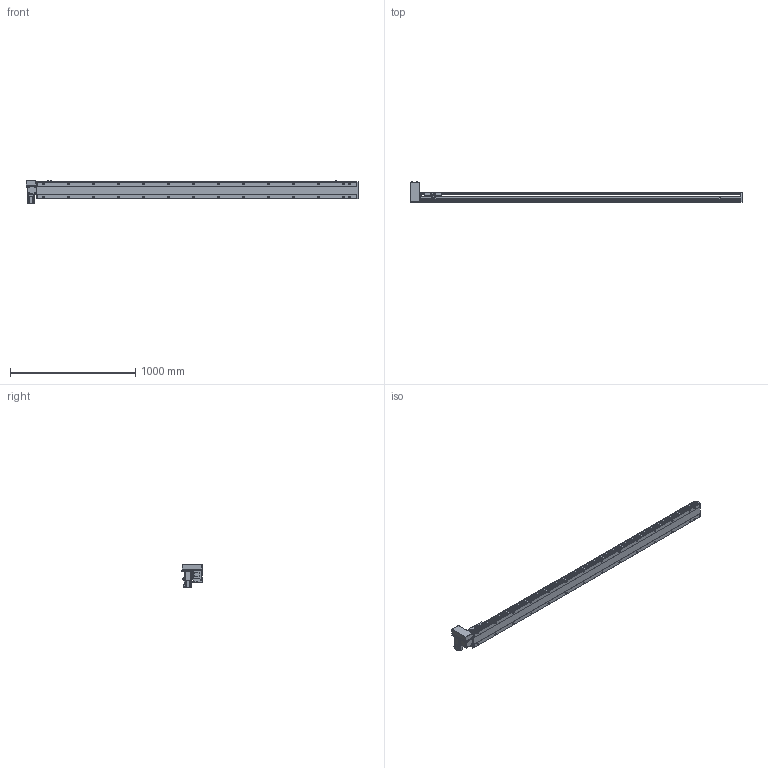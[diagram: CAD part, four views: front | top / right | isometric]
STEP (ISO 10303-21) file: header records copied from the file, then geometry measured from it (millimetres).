
FILE_DESCRIPTION( ( 'STEP AP214' ), '1' );
FILE_NAME( 'x:/temp/worker_4/temp/exporttempdir_2248_117_CDwH3/format_0/PBS140-P40-S2300-RU-T40-C1-N(0).stp', '2022-06-07T05:56:38', ( 'License CC BY-ND 4.0' ), ( 'CADENAS' ), ' ', 'PARTsolutions', ' ' );
FILE_SCHEMA( ( 'AUTOMOTIVE_DESIGN { 1 0 10303 214 1 1 1 1 }' ) );
Length unit declared in the file: millimetre
Products named in the file (7): PBS140-P40-S2300-RU-T40-C1-N(0); _PBS140-S2300()_body; _PBS140T-RU_motors; _T40-p1; _PBS140_sliser; _PBS140_plant; _PBS140_sensor
Assembly tree (8 placements, depth 2):
  PBS140-P40-S2300-RU-T40-C1-N(0)
    _PBS140-S2300()_body
    _PBS140T-RU_motors
    _T40-p1
    _PBS140_sliser
    _PBS140_plant
    _PBS140_sensor  x3
Bounding box: 2654 x 162.5 x 189.7 mm (x, y, z)
Volume: 11960534.8 mm3; surface area: 2041988.6 mm2
Topology: 8 solids, 8 shells, 1171 faces, 3076 edges, 2009 vertices
Faces by surface type: plane 728, cylinder 379, cone 54, sphere 8, torus 2
Full cylindrical faces by diameter (mm): 3.242 x4, 4 x2, 4.134 x4, 4.4 x8, 4.5 x2, 4.8 x4, 4.917 x36, 5.5 x7, 6 x2, 7 x30, 7.5 x8, 8 x12, 8.5 x4, 10.5 x28, 14 x1, 30 x2, 50 x2
Entity records: 43141 total; most frequent: CARTESIAN_POINT 7259, DIRECTION 5617, ORIENTED_EDGE 5272, EDGE_CURVE 2636, AXIS2_PLACEMENT_3D 1987, VERTEX_POINT 1845, LINE 1643, VECTOR 1643
